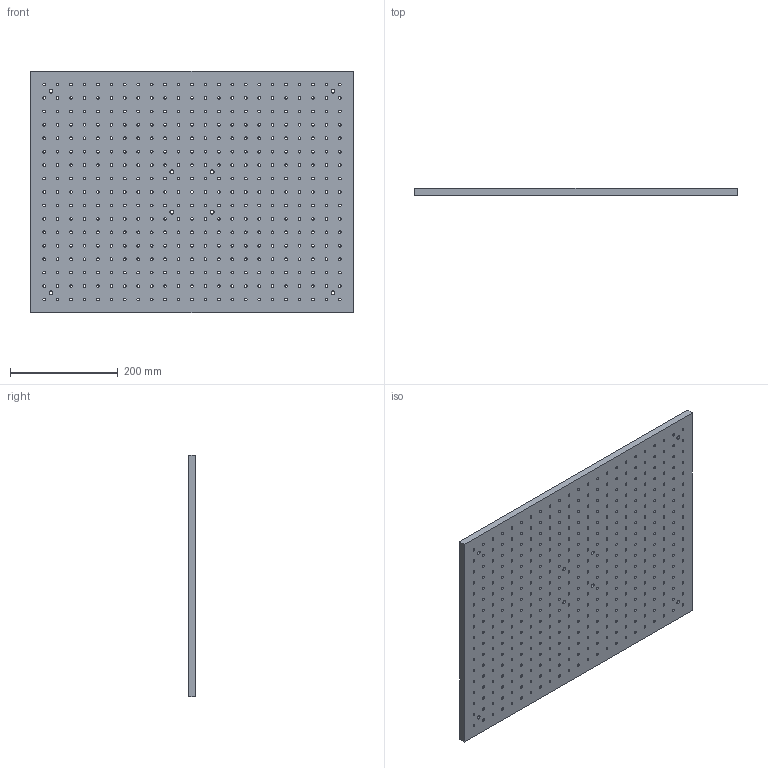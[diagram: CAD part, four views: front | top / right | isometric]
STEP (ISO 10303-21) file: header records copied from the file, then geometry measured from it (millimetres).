
FILE_DESCRIPTION (( 'STEP AP203' ), '1' );
FILE_NAME ('OTSB4560-13(AP203).STEP', '2022-02-28T09:17:40', ( '' ), ( '' ), 'SwSTEP 2.0', 'SolidWorks 2021', '' );
FILE_SCHEMA (( 'CONFIG_CONTROL_DESIGN' ));
Length unit declared in the file: millimetre
Products named in the file (1): OTSB4560-13(AP203)
Bounding box: 600 x 13.05 x 450 mm (x, y, z)
Volume: 3403041.9 mm3; surface area: 634799.2 mm2
Topology: 11 solids, 11 shells, 988 faces, 2874 edges, 1916 vertices
Faces by surface type: cylinder 814, plane 174
Entity records: 35199 total; most frequent: DIRECTION 6480, CARTESIAN_POINT 5779, ORIENTED_EDGE 5748, EDGE_CURVE 2874, AXIS2_PLACEMENT_3D 2617, VERTEX_POINT 1916, EDGE_LOOP 1794, CIRCLE 1628
